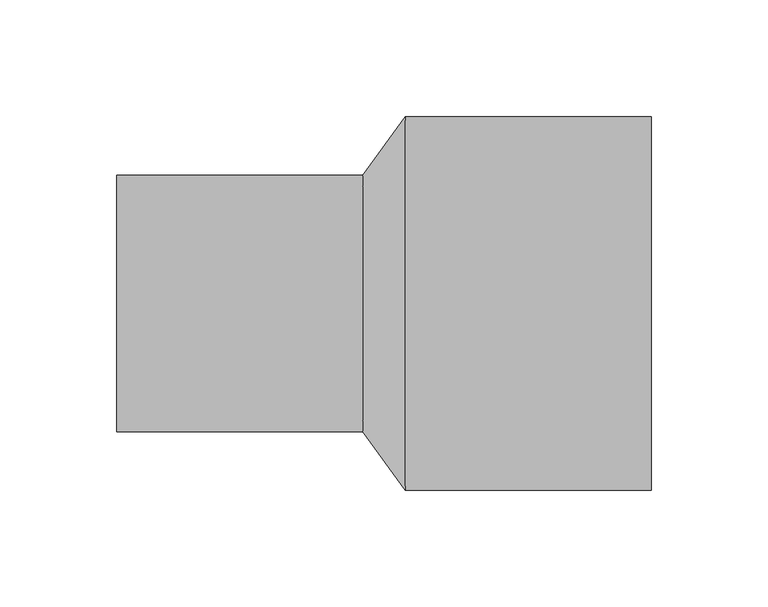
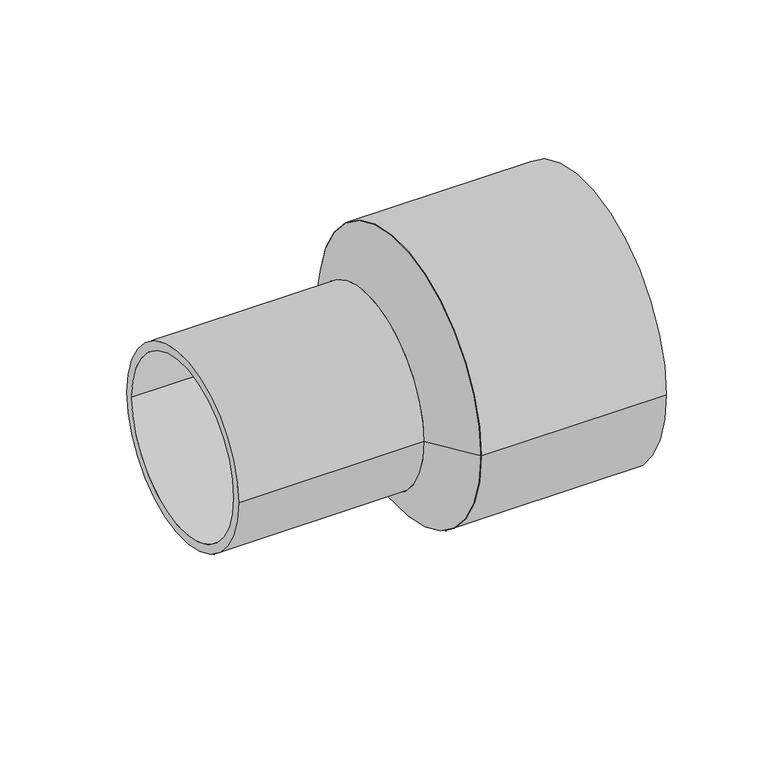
"""IFC4 building model written with IfcOpenShell, lengths in millimetres: pipe fitting geometry, EGB_VASEN_ PPR_Manguito reductor a tope WXRB110 : Manguito reductor a tope WXRB110."""

from ifc_helpers import new_model, si_unit, point, frame, origin, origin_2d, place, context, project, spatial, polyline, circle_curve, trimmed, segment, composite_curve, outline, extrude, source, transform, mapped, element, save
from ifc_brep_helpers import plane_surface, revolved_surface, advanced_brep


def pipe_fitting_e219f600(model_context):
    return source(origin(), model_context, "Body", "SolidModel", [
        extrude(outline(composite_curve([segment(trimmed(circle_curve(origin_2d(), 80.0), [point((-80.0, 0.0))], [point((80.0, 0.0))], False, "CARTESIAN"), True, "CONTINUOUS"), segment(trimmed(circle_curve(origin_2d(), 80.0), [point((80.0, 0.0))], [point((-80.0, 0.0))], False, "CARTESIAN"), True, "CONTINUOUS")], self_intersect=False), holes=[composite_curve([segment(trimmed(circle_curve(origin_2d(), 75.0), [point((-75.0, 0.0))], [point((75.0, 0.0))], True, "CARTESIAN"), True, "CONTINUOUS"), segment(trimmed(circle_curve(origin_2d(), 75.0), [point((75.0, 0.0))], [point((-75.0, 0.0))], True, "CARTESIAN"), True, "CONTINUOUS")], self_intersect=False)]), frame((9.16, 0.0, 0.0), z_axis=(1.0, 0.0, 0.0), x_axis=(0.0, 1.0, 0.0)), (0.0, 0.0, 1.0), 105.34),
        extrude(outline(composite_curve([segment(trimmed(circle_curve(origin_2d(), 55.0), [point((-55.0, 0.0))], [point((55.0, 0.0))], False, "CARTESIAN"), True, "CONTINUOUS"), segment(trimmed(circle_curve(origin_2d(), 55.0), [point((55.0, 0.0))], [point((-55.0, 0.0))], False, "CARTESIAN"), True, "CONTINUOUS")], self_intersect=False), holes=[composite_curve([segment(trimmed(circle_curve(origin_2d(), 50.0), [point((-50.0, 0.0))], [point((50.0, 0.0))], True, "CARTESIAN"), True, "CONTINUOUS"), segment(trimmed(circle_curve(origin_2d(), 50.0), [point((50.0, 0.0))], [point((-50.0, 0.0))], True, "CARTESIAN"), True, "CONTINUOUS")], self_intersect=False)]), frame((-114.5, 0.0, 0.0), z_axis=(1.0, 0.0, 0.0), x_axis=(0.0, 1.0, 0.0)), (0.0, 0.0, 1.0), 105.34),
        advanced_brep(
        [(9.16, -80.0, 0.0), (9.16, 80.0, 0.0), (-9.16, -55.0, 0.0), (-9.16, 55.0, 0.0)],
        [
            (0, 1, circle_curve(frame((9.16, 0.0, 0.0), z_axis=(1.0, 0.0, 0.0), x_axis=(0.0, -1.0, 0.0)), 80.0)),
            (1, 0, circle_curve(frame((9.16, 0.0, 0.0), z_axis=(1.0, 0.0, 0.0), x_axis=(0.0, 1.0, 0.0)), 80.0)),
            (2, 3, circle_curve(frame((-9.16, 0.0, 0.0), z_axis=(-1.0, 0.0, 0.0), x_axis=(0.0, 1.0, 0.0)), 55.0)),
            (3, 2, circle_curve(frame((-9.16, 0.0, 0.0), z_axis=(-1.0, 0.0, 0.0), x_axis=(0.0, -1.0, 0.0)), 55.0)),
            (3, 1),
            (0, 2),
        ],
        [
            plane_surface(frame((9.16, 0.0, 0.0), z_axis=(1.0, 0.0, 0.0), x_axis=(0.0, 0.0, -1.0))),
            plane_surface(frame((-9.16, 0.0, 0.0), z_axis=(-1.0, 0.0, 0.0), x_axis=(0.0, 0.0, -1.0))),
            revolved_surface(polyline([(-9.159999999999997, 55.00000000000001, 0.0), (9.159999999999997, 80.0, 0.0)]), (-49.464, 0.0, 0.0), (1.0, 0.0, 0.0)),
            revolved_surface(polyline([(-9.159999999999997, -55.00000000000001, 0.0), (9.159999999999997, -80.0, 0.0)]), (-49.464, 0.0, 0.0), (1.0, 0.0, 0.0)),
        ],
        [
            (0, [[1, 2]]),
            (1, [[3, 4]]),
            (2, [[-4, 5, -1, 6]]),
            (3, [[-3, -6, -2, -5]]),
        ],
    ),
    ])


if __name__ == "__main__":
    model = new_model("IFC4")
    model_context = context("Model", 3, world=origin())
    ifc_project = project(units=[si_unit("LENGTHUNIT", "METRE", prefix="MILLI")], contexts=[model_context])
    site = spatial("IfcSite", under=ifc_project)
    building = spatial("IfcBuilding", under=site)
    placement = place(None, origin())
    pipe_fitting_shape = pipe_fitting_e219f600(model_context)
    element("IfcPipeFitting", 1, ObjectType="EGB_VASEN_ PPR_Manguito reductor a tope WXRB110 : Manguito reductor a tope WXRB110", at=placement, inside=building, context=model_context, shape_type="MappedRepresentation", body=[
        mapped(pipe_fitting_shape, transform((0.0, 0.0, 0.0), x_axis=(1.0, 0.0, 0.0), y_axis=(0.0, 1.0, 0.0), z_axis=(0.0, 0.0, 1.0))),
    ])
    save(model, "model.ifc")
